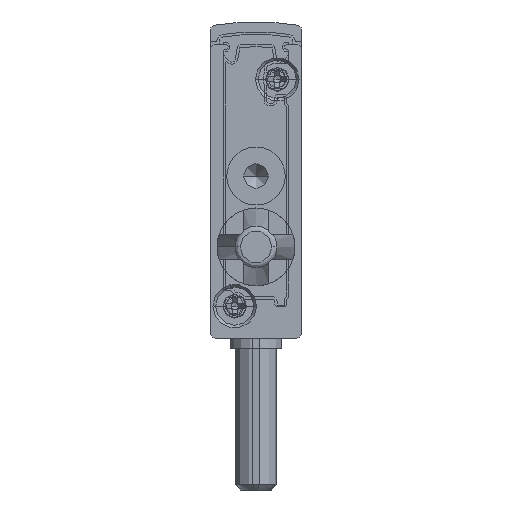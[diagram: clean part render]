
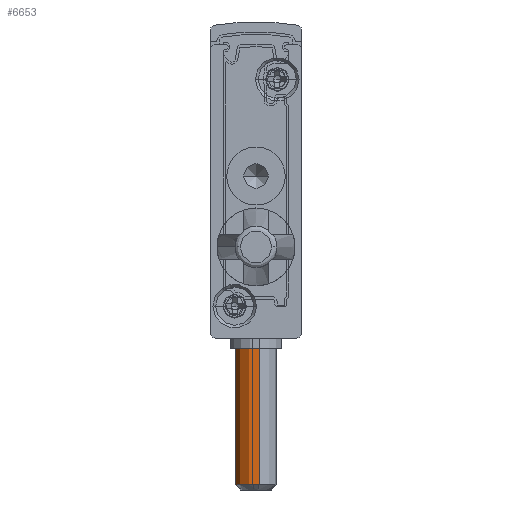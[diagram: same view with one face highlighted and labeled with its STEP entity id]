
A CAD part, front view. The second image highlights one B-rep face of the part: STEP entity #6653.
In plain terms, the highlighted cylindrical face has radius 2 mm (diameter 4 mm), a partial arc.
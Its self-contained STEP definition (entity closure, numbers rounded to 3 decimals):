
#249 = CARTESIAN_POINT ( 'NONE',  ( -4.199, 2420.523, -14.5 ) ) ;
#1531 = CARTESIAN_POINT ( 'NONE',  ( -4.199, 2420.523, -1. ) ) ;
#1891 = AXIS2_PLACEMENT_3D ( 'NONE', #11176, #8323, #29616 ) ;
#3606 = CARTESIAN_POINT ( 'NONE',  ( -4.5, 2422.5, -14.5 ) ) ;
#5035 = DIRECTION ( 'NONE',  ( 0., 0., 1. ) ) ;
#5505 = VECTOR ( 'NONE', #30470, 1000. ) ;
#6115 = AXIS2_PLACEMENT_3D ( 'NONE', #31301, #5035, #18116 ) ;
#6653 = ADVANCED_FACE ( 'NONE', ( #14414 ), #29316, .T. ) ;
#6970 = CIRCLE ( 'NONE', #1891, 2. ) ;
#7443 = EDGE_LOOP ( 'NONE', ( #19344, #17405, #26408, #23997 ) ) ;
#8323 = DIRECTION ( 'NONE',  ( 0., 0., -1. ) ) ;
#8370 = VERTEX_POINT ( 'NONE', #12883 ) ;
#11176 = CARTESIAN_POINT ( 'NONE',  ( -4.5, 2422.5, -1. ) ) ;
#11484 = CARTESIAN_POINT ( 'NONE',  ( -4.801, 2424.477, -15. ) ) ;
#12351 = EDGE_CURVE ( 'NONE', #8370, #27346, #17944, .T. ) ;
#12565 = AXIS2_PLACEMENT_3D ( 'NONE', #3606, #22124, #30004 ) ;
#12883 = CARTESIAN_POINT ( 'NONE',  ( -4.801, 2424.477, -14.5 ) ) ;
#13663 = VERTEX_POINT ( 'NONE', #1531 ) ;
#14414 = FACE_OUTER_BOUND ( 'NONE', #7443, .T. ) ;
#16056 = VERTEX_POINT ( 'NONE', #249 ) ;
#17405 = ORIENTED_EDGE ( 'NONE', *, *, #28108, .T. ) ;
#17944 = LINE ( 'NONE', #11484, #5505 ) ;
#18116 = DIRECTION ( 'NONE',  ( -0.15, 0.989, 0. ) ) ;
#19262 = CARTESIAN_POINT ( 'NONE',  ( -4.801, 2424.477, -1. ) ) ;
#19344 = ORIENTED_EDGE ( 'NONE', *, *, #30935, .T. ) ;
#22124 = DIRECTION ( 'NONE',  ( 0., 0., 1. ) ) ;
#22764 = DIRECTION ( 'NONE',  ( 0., 0., 1. ) ) ;
#23997 = ORIENTED_EDGE ( 'NONE', *, *, #12351, .F. ) ;
#25519 = VECTOR ( 'NONE', #22764, 1000. ) ;
#25605 = CARTESIAN_POINT ( 'NONE',  ( -4.199, 2420.523, -15. ) ) ;
#26408 = ORIENTED_EDGE ( 'NONE', *, *, #26826, .T. ) ;
#26826 = EDGE_CURVE ( 'NONE', #13663, #27346, #6970, .T. ) ;
#27346 = VERTEX_POINT ( 'NONE', #19262 ) ;
#27721 = CIRCLE ( 'NONE', #12565, 2. ) ;
#28108 = EDGE_CURVE ( 'NONE', #16056, #13663, #33841, .T. ) ;
#29316 = CYLINDRICAL_SURFACE ( 'NONE', #6115, 2. ) ;
#29616 = DIRECTION ( 'NONE',  ( 0.15, -0.989, 0. ) ) ;
#30004 = DIRECTION ( 'NONE',  ( 0.15, -0.989, 0. ) ) ;
#30470 = DIRECTION ( 'NONE',  ( 0., 0., 1. ) ) ;
#30935 = EDGE_CURVE ( 'NONE', #8370, #16056, #27721, .T. ) ;
#31301 = CARTESIAN_POINT ( 'NONE',  ( -4.5, 2422.5, -15. ) ) ;
#33841 = LINE ( 'NONE', #25605, #25519 ) ;
